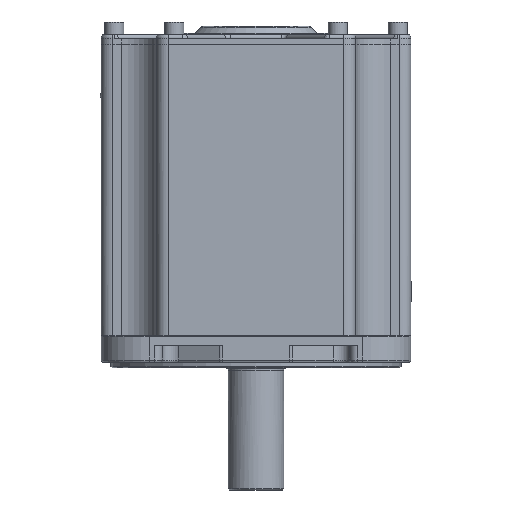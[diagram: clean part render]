
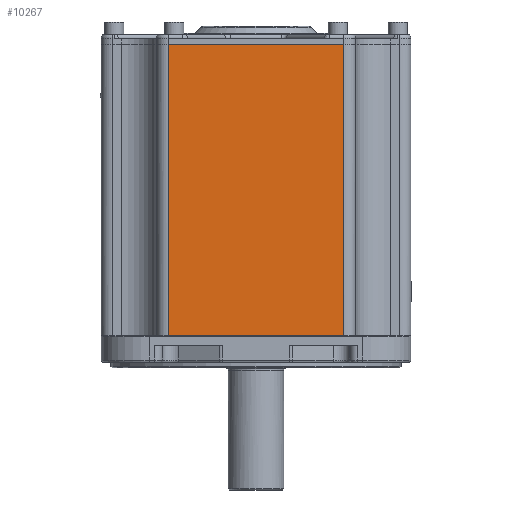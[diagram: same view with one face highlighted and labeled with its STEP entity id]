
A CAD part, front view. The second image highlights one B-rep face of the part: STEP entity #10267.
In plain terms, the highlighted planar face has unit normal (0, -1, 0).
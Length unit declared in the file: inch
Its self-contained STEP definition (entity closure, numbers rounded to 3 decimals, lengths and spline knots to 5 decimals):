
#10183=CARTESIAN_POINT('',(2.985,-5.25,10.35));
#10184=VERTEX_POINT('',#10183);
#10194=CARTESIAN_POINT('',(2.985,-5.25,0.45));
#10195=VERTEX_POINT('',#10194);
#10196=CARTESIAN_POINT('',(2.985,-5.25,10.35));
#10197=DIRECTION('',(0.0,0.0,-1.0));
#10198=VECTOR('',#10197,9.9);
#10199=LINE('',#10196,#10198);
#10200=EDGE_CURVE('',#10184,#10195,#10199,.T.);
#10224=CARTESIAN_POINT('',(-2.985,-5.25,0.45));
#10225=VERTEX_POINT('',#10224);
#10235=CARTESIAN_POINT('',(-2.985,-5.25,0.45));
#10236=DIRECTION('',(1.0,0.0,0.0));
#10237=VECTOR('',#10236,5.97);
#10238=LINE('',#10235,#10237);
#10239=EDGE_CURVE('',#10225,#10195,#10238,.T.);
#10244=CARTESIAN_POINT('',(3.375,-5.25,0.45));
#10245=DIRECTION('',(0.0,-1.0,0.0));
#10246=DIRECTION('',(0.0,0.0,-1.0));
#10247=AXIS2_PLACEMENT_3D('',#10244,#10245,#10246);
#10248=PLANE('',#10247);
#10249=CARTESIAN_POINT('',(-2.985,-5.25,10.35));
#10250=VERTEX_POINT('',#10249);
#10251=CARTESIAN_POINT('',(-2.985,-5.25,10.35));
#10252=DIRECTION('',(1.0,0.0,0.0));
#10253=VECTOR('',#10252,5.97);
#10254=LINE('',#10251,#10253);
#10255=EDGE_CURVE('',#10250,#10184,#10254,.T.);
#10256=ORIENTED_EDGE('',*,*,#10255,.F.);
#10257=CARTESIAN_POINT('',(-2.985,-5.25,0.45));
#10258=DIRECTION('',(0.0,0.0,1.0));
#10259=VECTOR('',#10258,9.9);
#10260=LINE('',#10257,#10259);
#10261=EDGE_CURVE('',#10225,#10250,#10260,.T.);
#10262=ORIENTED_EDGE('',*,*,#10261,.F.);
#10263=ORIENTED_EDGE('',*,*,#10239,.T.);
#10264=ORIENTED_EDGE('',*,*,#10200,.F.);
#10265=EDGE_LOOP('',(#10256,#10262,#10263,#10264));
#10266=FACE_OUTER_BOUND('',#10265,.T.);
#10267=ADVANCED_FACE('',(#10266),#10248,.T.);
